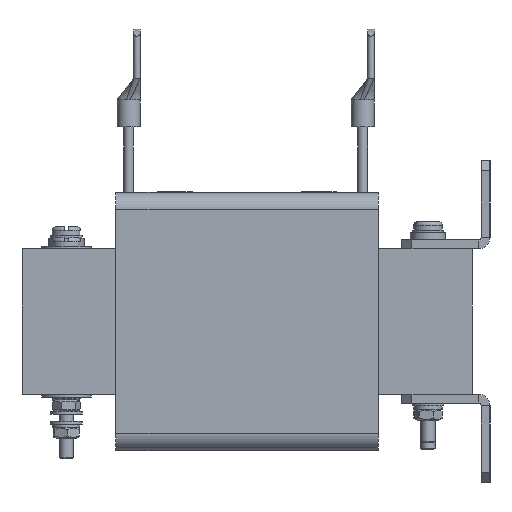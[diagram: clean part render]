
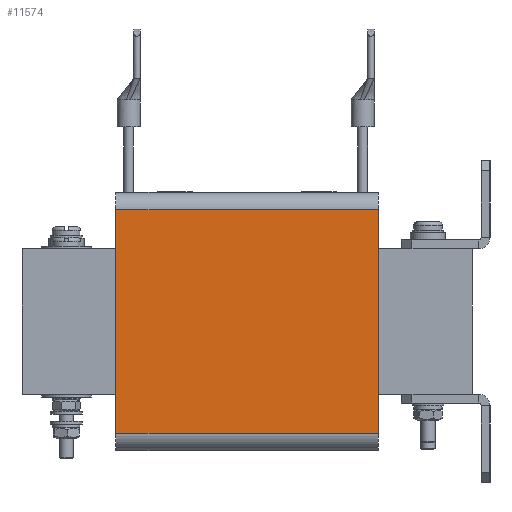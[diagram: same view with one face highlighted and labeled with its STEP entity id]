
A CAD part, left-side view. The second image highlights one B-rep face of the part: STEP entity #11574.
In plain terms, the highlighted planar face has unit normal (-1, 0, 0).
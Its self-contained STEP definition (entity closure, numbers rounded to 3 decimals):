
#896=LINE('',#19953,#1756);
#897=LINE('',#19959,#1757);
#898=LINE('',#19960,#1758);
#899=LINE('',#19961,#1759);
#1756=VECTOR('',#14946,10.);
#1757=VECTOR('',#14953,10.);
#1758=VECTOR('',#14954,10.);
#1759=VECTOR('',#14955,10.);
#2355=PLANE('',#12545);
#3434=FACE_OUTER_BOUND('',#4289,.T.);
#4289=EDGE_LOOP('',(#9897,#9898,#9899,#9900));
#5932=VERTEX_POINT('',#19951);
#5933=VERTEX_POINT('',#19952);
#5934=VERTEX_POINT('',#19957);
#5935=VERTEX_POINT('',#19958);
#7364=EDGE_CURVE('',#5932,#5933,#896,.T.);
#7367=EDGE_CURVE('',#5934,#5935,#897,.T.);
#7368=EDGE_CURVE('',#5932,#5934,#898,.T.);
#7369=EDGE_CURVE('',#5935,#5933,#899,.T.);
#9897=ORIENTED_EDGE('',*,*,#7367,.F.);
#9898=ORIENTED_EDGE('',*,*,#7368,.F.);
#9899=ORIENTED_EDGE('',*,*,#7364,.T.);
#9900=ORIENTED_EDGE('',*,*,#7369,.F.);
#11574=ADVANCED_FACE('',(#3434),#2355,.T.);
#12545=AXIS2_PLACEMENT_3D('',#19956,#14951,#14952);
#14946=DIRECTION('',(0.,-1.,0.));
#14951=DIRECTION('center_axis',(-1.,0.,0.));
#14952=DIRECTION('ref_axis',(0.,0.,1.));
#14953=DIRECTION('',(0.,-1.,0.));
#14954=DIRECTION('',(0.,0.,1.));
#14955=DIRECTION('',(0.,0.,-1.));
#19951=CARTESIAN_POINT('',(-74.5,37.,-31.5));
#19952=CARTESIAN_POINT('',(-74.5,-37.,-31.5));
#19953=CARTESIAN_POINT('',(-74.5,0.,-31.5));
#19956=CARTESIAN_POINT('Origin',(-74.5,0.,-31.5));
#19957=CARTESIAN_POINT('',(-74.5,37.,31.5));
#19958=CARTESIAN_POINT('',(-74.5,-37.,31.5));
#19959=CARTESIAN_POINT('',(-74.5,0.,31.5));
#19960=CARTESIAN_POINT('',(-74.5,37.,31.5));
#19961=CARTESIAN_POINT('',(-74.5,-37.,31.5));
